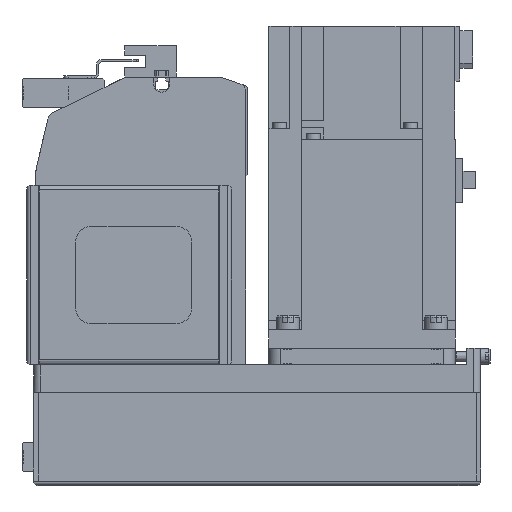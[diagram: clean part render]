
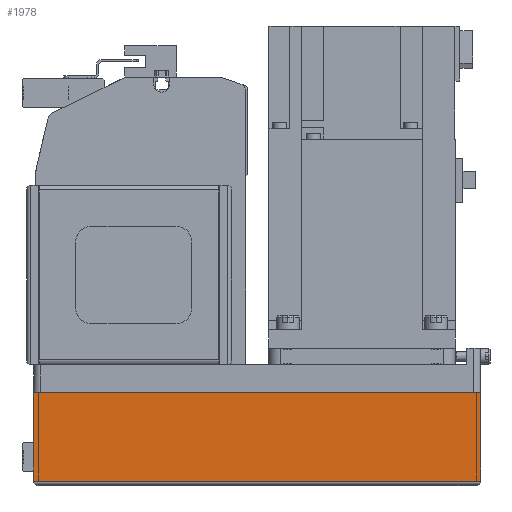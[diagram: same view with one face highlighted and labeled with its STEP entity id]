
A CAD part, left-side view. The second image highlights one B-rep face of the part: STEP entity #1978.
In plain terms, the highlighted planar face has unit normal (-1, 0, 0) as drawn and (0, 1, 0) by its records, which use the part's own axes.
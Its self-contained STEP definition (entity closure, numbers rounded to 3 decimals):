
#1978 = ADVANCED_FACE( '', ( #4618 ), #4619, .T. );
#4618 = FACE_OUTER_BOUND( '', #8050, .T. );
#4619 = PLANE( '', #8051 );
#8050 = EDGE_LOOP( '', ( #13639, #13640, #13641, #13642 ) );
#8051 = AXIS2_PLACEMENT_3D( '', #13643, #13644, #13645 );
#13639 = ORIENTED_EDGE( '', *, *, #19934, .F. );
#13640 = ORIENTED_EDGE( '', *, *, #21361, .F. );
#13641 = ORIENTED_EDGE( '', *, *, #21362, .T. );
#13642 = ORIENTED_EDGE( '', *, *, #21363, .T. );
#13643 = CARTESIAN_POINT( '', ( -192., 40., -50. ) );
#13644 = DIRECTION( '', ( 0., 1., 0. ) );
#13645 = DIRECTION( '', ( 0., 0., 1. ) );
#19934 = EDGE_CURVE( '', #23903, #23905, #23906, .T. );
#21361 = EDGE_CURVE( '', #26233, #23903, #26234, .T. );
#21362 = EDGE_CURVE( '', #26233, #26235, #26236, .T. );
#21363 = EDGE_CURVE( '', #26235, #23905, #26237, .T. );
#23903 = VERTEX_POINT( '', #29561 );
#23905 = VERTEX_POINT( '', #29564 );
#23906 = LINE( '', #29565, #29566 );
#26233 = VERTEX_POINT( '', #33238 );
#26234 = LINE( '', #33239, #33240 );
#26235 = VERTEX_POINT( '', #33241 );
#26236 = LINE( '', #33242, #33243 );
#26237 = LINE( '', #33244, #33245 );
#29561 = CARTESIAN_POINT( '', ( 0., 40., -50. ) );
#29564 = CARTESIAN_POINT( '', ( 0., 40., -12.1 ) );
#29565 = CARTESIAN_POINT( '', ( 0., 40., -50. ) );
#29566 = VECTOR( '', #37020, 1000. );
#33238 = CARTESIAN_POINT( '', ( -192., 40., -50. ) );
#33239 = CARTESIAN_POINT( '', ( -192., 40., -50. ) );
#33240 = VECTOR( '', #38827, 1000. );
#33241 = CARTESIAN_POINT( '', ( -192., 40., -12.1 ) );
#33242 = CARTESIAN_POINT( '', ( -192., 40., -50. ) );
#33243 = VECTOR( '', #38828, 1000. );
#33244 = CARTESIAN_POINT( '', ( -192., 40., -12.1 ) );
#33245 = VECTOR( '', #38829, 1000. );
#37020 = DIRECTION( '', ( 0., 0., 1. ) );
#38827 = DIRECTION( '', ( 1., 0., 0. ) );
#38828 = DIRECTION( '', ( 0., 0., 1. ) );
#38829 = DIRECTION( '', ( 1., 0., 0. ) );
